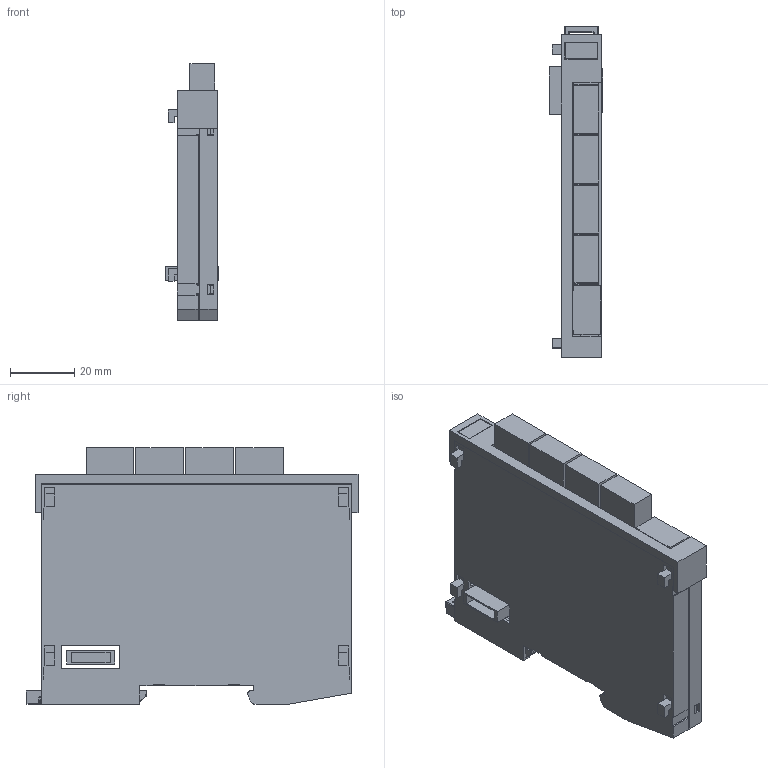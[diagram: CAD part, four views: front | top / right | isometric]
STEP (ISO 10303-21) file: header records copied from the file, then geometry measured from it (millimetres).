
FILE_DESCRIPTION (( 'STEP AP214' ), '1' );
FILE_NAME ('AI043.STEP', '2016-01-21T10:39:52', ( 'SIGMATEK GmbH & Co KG' ), ( 'SIGMATEK GmbH & Co KG' ), 'SwSTEP 2.0', 'SolidWorks 2015', '' );
FILE_SCHEMA (( 'AUTOMOTIVE_DESIGN' ));
Length unit declared in the file: millimetre
Products named in the file (12): S-Dias Schale rechts_f Suport; S-Dias Schale links_f Suport; 4110251342_MF 10-5 MC CABUR_1854510000; AI043; Steckerabdeckung_Var 9; LP_AI043; Dummy_4110262104 4pol.Federkraftstecker f.2reih 1952283; Dummy_4110251205 4pol.Minicombicon-Grundgehäuse RM3,5 1937512; Dummy_4080225346 Erni Stift; Dummy_4080225345 Erni Buchse; S-Dias Rasthaken 20130313; Schieber_f Suport
Assembly tree (17 placements, depth 3):
  AI043
    4110251342_MF 10-5 MC CABUR_1854510000
    S-Dias Schale links_f Suport
    S-Dias Schale rechts_f Suport
    Schieber_f Suport
    S-Dias Rasthaken 20130313
    LP_AI043
      Dummy_4080225345 Erni Buchse
      Dummy_4080225346 Erni Stift
      Dummy_4110251205 4pol.Minicombicon-Grundgehäuse RM3,5 1937512  x4
      Dummy_4110262104 4pol.Federkraftstecker f.2reih 1952283  x4
    Steckerabdeckung_Var 9
Bounding box: 16.8 x 103.61 x 80.15 mm (x, y, z)
Volume: 32380.4 mm3; surface area: 45811.3 mm2
Topology: 16 solids, 16 shells, 865 faces, 2495 edges, 1652 vertices
Faces by surface type: plane 619, cylinder 135, bspline 55, cone 28, torus 15, sphere 13
Entity records: 32051 total; most frequent: CARTESIAN_POINT 7544, ORIENTED_EDGE 4768, DIRECTION 3749, EDGE_CURVE 2384, VECTOR 1717, LINE 1717, VERTEX_POINT 1584, AXIS2_PLACEMENT_3D 1016
